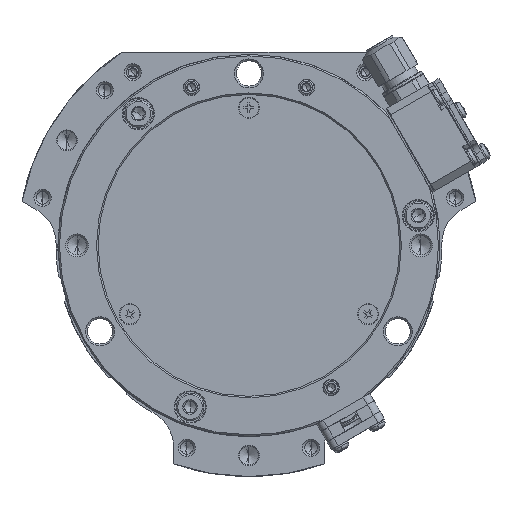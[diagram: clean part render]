
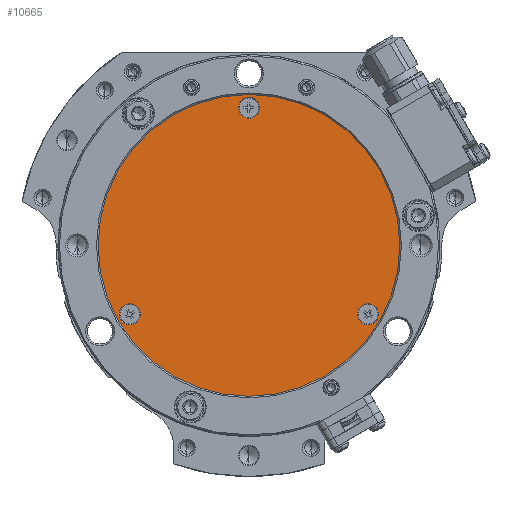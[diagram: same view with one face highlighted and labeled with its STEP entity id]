
A CAD part, front view. The second image highlights one B-rep face of the part: STEP entity #10665.
In plain terms, the highlighted planar face has unit normal (0, -1, 0) as drawn and (0, 1, 0) by its records, which use the part's own axes.
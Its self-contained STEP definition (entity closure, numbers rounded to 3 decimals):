
#152 = EDGE_CURVE ( 'NONE', #24631, #47319, #48429, .T. ) ;
#426 = DIRECTION ( 'NONE',  ( 0., 1., 0. ) ) ;
#1272 = EDGE_CURVE ( 'NONE', #47319, #24631, #60914, .T. ) ;
#1311 = CARTESIAN_POINT ( 'NONE',  ( 0., 1.5, -39.5 ) ) ;
#2131 = CARTESIAN_POINT ( 'NONE',  ( 0., 1.5, 0. ) ) ;
#2303 = DIRECTION ( 'NONE',  ( 0., 1., 0. ) ) ;
#3904 = VERTEX_POINT ( 'NONE', #80165 ) ;
#4401 = AXIS2_PLACEMENT_3D ( 'NONE', #26696, #78248, #45572 ) ;
#4490 = ORIENTED_EDGE ( 'NONE', *, *, #152, .T. ) ;
#4691 = EDGE_LOOP ( 'NONE', ( #4490, #75379 ) ) ;
#5000 = CIRCLE ( 'NONE', #76301, 2.75 ) ;
#7987 = DIRECTION ( 'NONE',  ( 0., 1., 0. ) ) ;
#9418 = EDGE_CURVE ( 'NONE', #66576, #46974, #82248, .T. ) ;
#10499 = DIRECTION ( 'NONE',  ( 0., 0., 1. ) ) ;
#10665 = ADVANCED_FACE ( 'NONE', ( #44094, #36822, #62574, #70711 ), #50133, .F. ) ;
#11116 = CARTESIAN_POINT ( 'NONE',  ( -36., 1.5, 2.75 ) ) ;
#12467 = CIRCLE ( 'NONE', #50895, 2.75 ) ;
#13168 = CARTESIAN_POINT ( 'NONE',  ( 0., 1.5, 39.5 ) ) ;
#13308 = DIRECTION ( 'NONE',  ( 0., 1., 0. ) ) ;
#13824 = CARTESIAN_POINT ( 'NONE',  ( 18., 1.5, -31.177 ) ) ;
#15480 = EDGE_CURVE ( 'NONE', #19378, #3904, #30349, .T. ) ;
#15858 = EDGE_CURVE ( 'NONE', #46974, #66576, #33146, .T. ) ;
#19203 = EDGE_LOOP ( 'NONE', ( #47779, #68240 ) ) ;
#19378 = VERTEX_POINT ( 'NONE', #61860 ) ;
#21092 = CARTESIAN_POINT ( 'NONE',  ( 18., 1.5, 31.177 ) ) ;
#21783 = EDGE_LOOP ( 'NONE', ( #30351, #22694 ) ) ;
#22694 = ORIENTED_EDGE ( 'NONE', *, *, #15858, .F. ) ;
#24384 = DIRECTION ( 'NONE',  ( 0., -1., 0. ) ) ;
#24631 = VERTEX_POINT ( 'NONE', #13168 ) ;
#25474 = DIRECTION ( 'NONE',  ( 0., 0., 1. ) ) ;
#26696 = CARTESIAN_POINT ( 'NONE',  ( -36., 1.5, 0. ) ) ;
#27044 = ORIENTED_EDGE ( 'NONE', *, *, #81959, .F. ) ;
#30349 = CIRCLE ( 'NONE', #50915, 2.75 ) ;
#30351 = ORIENTED_EDGE ( 'NONE', *, *, #9418, .F. ) ;
#30492 = EDGE_CURVE ( 'NONE', #65876, #70520, #12467, .T. ) ;
#33146 = CIRCLE ( 'NONE', #4401, 2.75 ) ;
#33284 = CARTESIAN_POINT ( 'NONE',  ( 18., 1.5, 31.177 ) ) ;
#34694 = AXIS2_PLACEMENT_3D ( 'NONE', #2131, #426, #66070 ) ;
#36098 = EDGE_CURVE ( 'NONE', #70520, #65876, #72805, .T. ) ;
#36412 = CARTESIAN_POINT ( 'NONE',  ( 0., 1.5, 0. ) ) ;
#36822 = FACE_BOUND ( 'NONE', #44467, .T. ) ;
#38185 = ORIENTED_EDGE ( 'NONE', *, *, #15480, .F. ) ;
#38336 = CARTESIAN_POINT ( 'NONE',  ( -36., 1.5, 0. ) ) ;
#39998 = DIRECTION ( 'NONE',  ( -0.866, 0., -0.5 ) ) ;
#44094 = FACE_BOUND ( 'NONE', #19203, .T. ) ;
#44467 = EDGE_LOOP ( 'NONE', ( #38185, #27044 ) ) ;
#44843 = CARTESIAN_POINT ( 'NONE',  ( 15.618, 1.5, 32.552 ) ) ;
#45572 = DIRECTION ( 'NONE',  ( 0., 0., 1. ) ) ;
#46974 = VERTEX_POINT ( 'NONE', #72679 ) ;
#47304 = DIRECTION ( 'NONE',  ( 0., 1., 0. ) ) ;
#47319 = VERTEX_POINT ( 'NONE', #1311 ) ;
#47779 = ORIENTED_EDGE ( 'NONE', *, *, #36098, .F. ) ;
#48429 = CIRCLE ( 'NONE', #34694, 39.5 ) ;
#48946 = DIRECTION ( 'NONE',  ( 0., 1., 0. ) ) ;
#49260 = DIRECTION ( 'NONE',  ( 0., 0., -1. ) ) ;
#50133 = PLANE ( 'NONE',  #58800 ) ;
#50895 = AXIS2_PLACEMENT_3D ( 'NONE', #33284, #7987, #80147 ) ;
#50915 = AXIS2_PLACEMENT_3D ( 'NONE', #60694, #2303, #81338 ) ;
#52268 = AXIS2_PLACEMENT_3D ( 'NONE', #21092, #48946, #67863 ) ;
#57664 = DIRECTION ( 'NONE',  ( 0., 1., 0. ) ) ;
#58800 = AXIS2_PLACEMENT_3D ( 'NONE', #36412, #24384, #49260 ) ;
#60694 = CARTESIAN_POINT ( 'NONE',  ( 18., 1.5, -31.177 ) ) ;
#60914 = CIRCLE ( 'NONE', #62336, 39.5 ) ;
#61860 = CARTESIAN_POINT ( 'NONE',  ( 15.618, 1.5, -32.552 ) ) ;
#62336 = AXIS2_PLACEMENT_3D ( 'NONE', #63691, #13308, #10499 ) ;
#62574 = FACE_BOUND ( 'NONE', #21783, .T. ) ;
#63691 = CARTESIAN_POINT ( 'NONE',  ( 0., 1.5, 0. ) ) ;
#64839 = CARTESIAN_POINT ( 'NONE',  ( 20.382, 1.5, 29.802 ) ) ;
#65677 = AXIS2_PLACEMENT_3D ( 'NONE', #38336, #57664, #25474 ) ;
#65876 = VERTEX_POINT ( 'NONE', #44843 ) ;
#66070 = DIRECTION ( 'NONE',  ( 0., 0., 1. ) ) ;
#66576 = VERTEX_POINT ( 'NONE', #11116 ) ;
#67863 = DIRECTION ( 'NONE',  ( 0.866, 0., -0.5 ) ) ;
#68240 = ORIENTED_EDGE ( 'NONE', *, *, #30492, .F. ) ;
#70520 = VERTEX_POINT ( 'NONE', #64839 ) ;
#70711 = FACE_OUTER_BOUND ( 'NONE', #4691, .T. ) ;
#72679 = CARTESIAN_POINT ( 'NONE',  ( -36., 1.5, -2.75 ) ) ;
#72805 = CIRCLE ( 'NONE', #52268, 2.75 ) ;
#75379 = ORIENTED_EDGE ( 'NONE', *, *, #1272, .T. ) ;
#76301 = AXIS2_PLACEMENT_3D ( 'NONE', #13824, #47304, #39998 ) ;
#78248 = DIRECTION ( 'NONE',  ( 0., 1., 0. ) ) ;
#80147 = DIRECTION ( 'NONE',  ( 0.866, 0., -0.5 ) ) ;
#80165 = CARTESIAN_POINT ( 'NONE',  ( 20.382, 1.5, -29.802 ) ) ;
#81338 = DIRECTION ( 'NONE',  ( -0.866, 0., -0.5 ) ) ;
#81959 = EDGE_CURVE ( 'NONE', #3904, #19378, #5000, .T. ) ;
#82248 = CIRCLE ( 'NONE', #65677, 2.75 ) ;
